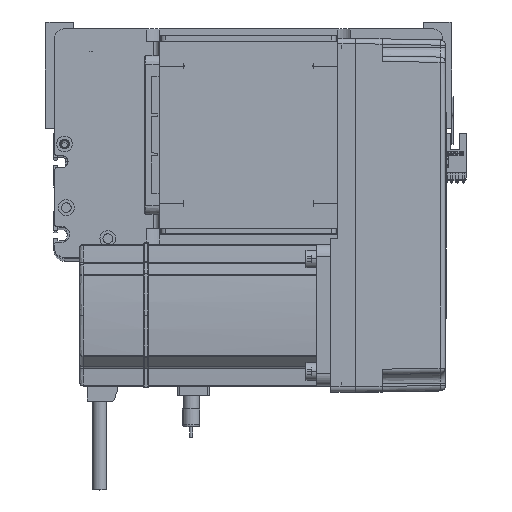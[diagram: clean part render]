
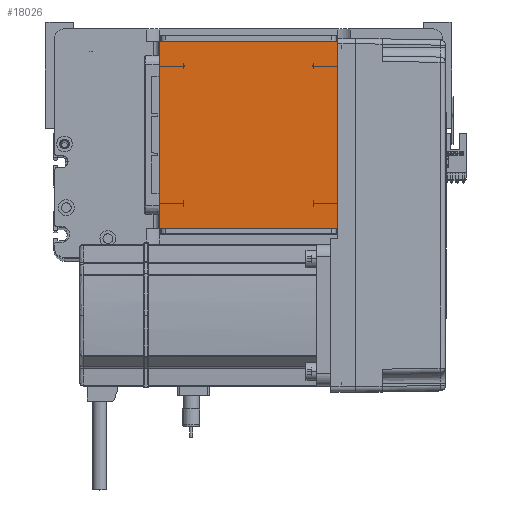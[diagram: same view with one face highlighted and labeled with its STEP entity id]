
A CAD part, top view. The second image highlights one B-rep face of the part: STEP entity #18026.
In plain terms, the highlighted planar face has unit normal (0, 0, 1).
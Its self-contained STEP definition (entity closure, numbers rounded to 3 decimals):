
#141 = LINE ( 'NONE', #24330, #40606 ) ;
#566 = EDGE_CURVE ( 'NONE', #45512, #22353, #47033, .T. ) ;
#3760 = CARTESIAN_POINT ( 'NONE',  ( 0., 0., 115. ) ) ;
#4998 = VECTOR ( 'NONE', #30755, 1000. ) ;
#13394 = ORIENTED_EDGE ( 'NONE', *, *, #48125, .T. ) ;
#14757 = CARTESIAN_POINT ( 'NONE',  ( -50.5, 16., 115. ) ) ;
#15074 = DIRECTION ( 'NONE',  ( 0., 0., 1. ) ) ;
#18026 = ADVANCED_FACE ( 'NONE', ( #50363 ), #38934, .T. ) ;
#18977 = DIRECTION ( 'NONE',  ( 1., 0., 0. ) ) ;
#21728 = ORIENTED_EDGE ( 'NONE', *, *, #566, .T. ) ;
#22085 = CARTESIAN_POINT ( 'NONE',  ( 50.5, 16., 115. ) ) ;
#22353 = VERTEX_POINT ( 'NONE', #22085 ) ;
#22410 = VECTOR ( 'NONE', #50439, 1000. ) ;
#23496 = DIRECTION ( 'NONE',  ( -1., 0., 0. ) ) ;
#24330 = CARTESIAN_POINT ( 'NONE',  ( -50.5, 122., 115. ) ) ;
#25958 = VERTEX_POINT ( 'NONE', #36162 ) ;
#29337 = CARTESIAN_POINT ( 'NONE',  ( 50.5, 122., 115. ) ) ;
#30106 = LINE ( 'NONE', #50159, #4998 ) ;
#30300 = CARTESIAN_POINT ( 'NONE',  ( -50.5, 16., 115. ) ) ;
#30755 = DIRECTION ( 'NONE',  ( 0., 1., 0. ) ) ;
#31093 = VECTOR ( 'NONE', #23496, 1000. ) ;
#31111 = CARTESIAN_POINT ( 'NONE',  ( -50.5, 122., 115. ) ) ;
#31923 = DIRECTION ( 'NONE',  ( 0., -1., 0. ) ) ;
#33531 = LINE ( 'NONE', #31111, #31093 ) ;
#35271 = EDGE_CURVE ( 'NONE', #25958, #45512, #141, .T. ) ;
#36162 = CARTESIAN_POINT ( 'NONE',  ( -50.5, 122., 115. ) ) ;
#38205 = EDGE_CURVE ( 'NONE', #22353, #40097, #30106, .T. ) ;
#38345 = EDGE_LOOP ( 'NONE', ( #50280, #21728, #39774, #13394 ) ) ;
#38934 = PLANE ( 'NONE',  #45732 ) ;
#39774 = ORIENTED_EDGE ( 'NONE', *, *, #38205, .T. ) ;
#40097 = VERTEX_POINT ( 'NONE', #29337 ) ;
#40606 = VECTOR ( 'NONE', #31923, 1000. ) ;
#45512 = VERTEX_POINT ( 'NONE', #30300 ) ;
#45732 = AXIS2_PLACEMENT_3D ( 'NONE', #3760, #15074, #18977 ) ;
#47033 = LINE ( 'NONE', #14757, #22410 ) ;
#48125 = EDGE_CURVE ( 'NONE', #40097, #25958, #33531, .T. ) ;
#50159 = CARTESIAN_POINT ( 'NONE',  ( 50.5, 122., 115. ) ) ;
#50280 = ORIENTED_EDGE ( 'NONE', *, *, #35271, .T. ) ;
#50363 = FACE_OUTER_BOUND ( 'NONE', #38345, .T. ) ;
#50439 = DIRECTION ( 'NONE',  ( 1., 0., 0. ) ) ;
